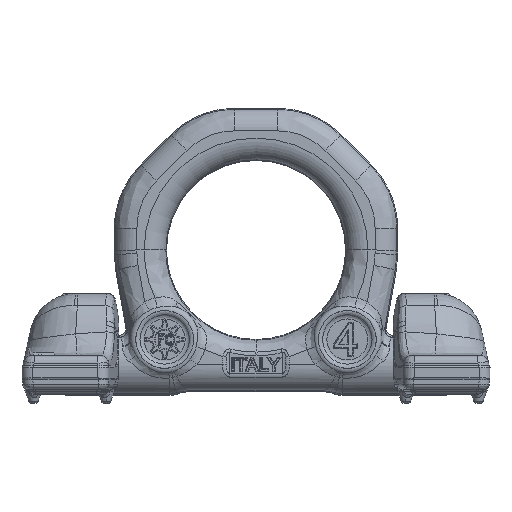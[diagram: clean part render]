
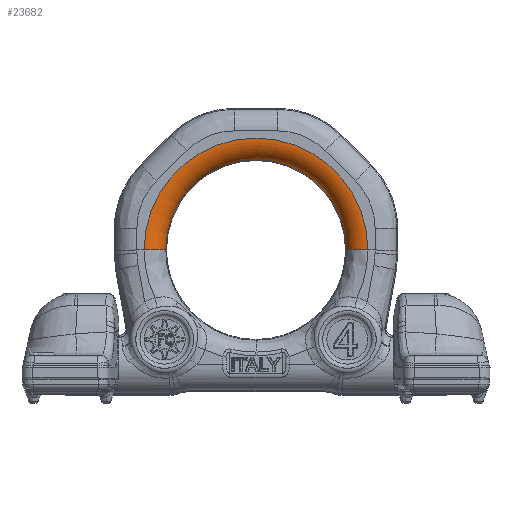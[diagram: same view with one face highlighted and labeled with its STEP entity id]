
A CAD part, front view. The second image highlights one B-rep face of the part: STEP entity #23682.
In plain terms, the highlighted toroidal (fillet/blend) face has major radius 30 mm and minor radius 6 mm.
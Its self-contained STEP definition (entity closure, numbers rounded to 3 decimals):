
#6072=CARTESIAN_POINT('',(-24.217,-2.6,31.));
#6073=VERTEX_POINT('Vertex186',#6072);
#6082=CARTESIAN_POINT('',(-30.,-7.,31.));
#6083=VERTEX_POINT('Vertex187',#6082);
#6084=CARTESIAN_POINT('',(-30.,-7.,31.));
#6085=CARTESIAN_POINT('',(-29.643,-7.,31.));
#6086=CARTESIAN_POINT('',(-29.287,-6.968,31.));
#6087=CARTESIAN_POINT('',(-28.584,-6.841,31.));
#6088=CARTESIAN_POINT('',(-28.239,-6.747,31.));
#6089=CARTESIAN_POINT('',(-27.57,-6.498,31.));
#6090=CARTESIAN_POINT('',(-27.247,-6.343,31.));
#6091=CARTESIAN_POINT('',(-26.634,-5.979,31.));
#6092=CARTESIAN_POINT('',(-26.343,-5.77,31.));
#6093=CARTESIAN_POINT('',(-25.804,-5.303,31.));
#6094=CARTESIAN_POINT('',(-25.555,-5.046,31.));
#6095=CARTESIAN_POINT('',(-25.107,-4.49,31.));
#6096=CARTESIAN_POINT('',(-24.908,-4.193,31.));
#6097=CARTESIAN_POINT('',(-24.565,-3.567,31.));
#6098=CARTESIAN_POINT('',(-24.422,-3.239,31.));
#6099=CARTESIAN_POINT('',(-24.276,-2.801,31.));
#6100=CARTESIAN_POINT('',(-24.246,-2.701,31.));
#6101=CARTESIAN_POINT('',(-24.217,-2.6,31.));
#6102=B_SPLINE_CURVE_WITH_KNOTS('nurbsCrv280',3,(#6084,#6085,#6086,#6087,#6088,
#6089,#6090,#6091,#6092,#6093,#6094,#6095,#6096,#6097,#6098,#6099,#6100,#6101),
.UNSPECIFIED.,.F.,.F.,(4,2,2,2,2,2,2,2,4),(0.,1.147,2.294
,3.441,4.588,5.736,6.883,
8.03,8.366),.UNSPECIFIED.);
#6103=EDGE_CURVE('Edge280',#6083,#6073,#6102,.T.);
#6428=CARTESIAN_POINT('',(30.,-7.,31.));
#6429=VERTEX_POINT('Vertex196',#6428);
#6441=CARTESIAN_POINT('',(24.217,-2.6,31.));
#6442=VERTEX_POINT('Vertex197',#6441);
#6443=CARTESIAN_POINT('',(30.,-7.,31.));
#6444=CARTESIAN_POINT('',(29.643,-7.,31.));
#6445=CARTESIAN_POINT('',(29.287,-6.968,31.));
#6446=CARTESIAN_POINT('',(28.584,-6.841,31.));
#6447=CARTESIAN_POINT('',(28.239,-6.747,31.));
#6448=CARTESIAN_POINT('',(27.57,-6.498,31.));
#6449=CARTESIAN_POINT('',(27.247,-6.343,31.));
#6450=CARTESIAN_POINT('',(26.634,-5.979,31.));
#6451=CARTESIAN_POINT('',(26.343,-5.77,31.));
#6452=CARTESIAN_POINT('',(25.804,-5.303,31.));
#6453=CARTESIAN_POINT('',(25.555,-5.046,31.));
#6454=CARTESIAN_POINT('',(25.107,-4.49,31.));
#6455=CARTESIAN_POINT('',(24.908,-4.193,31.));
#6456=CARTESIAN_POINT('',(24.565,-3.567,31.));
#6457=CARTESIAN_POINT('',(24.422,-3.239,31.));
#6458=CARTESIAN_POINT('',(24.276,-2.801,31.));
#6459=CARTESIAN_POINT('',(24.246,-2.701,31.));
#6460=CARTESIAN_POINT('',(24.217,-2.6,31.));
#6461=B_SPLINE_CURVE_WITH_KNOTS('nurbsCrv291',3,(#6443,#6444,#6445,#6446,#6447,
#6448,#6449,#6450,#6451,#6452,#6453,#6454,#6455,#6456,#6457,#6458,#6459,#6460),
.UNSPECIFIED.,.F.,.F.,(4,2,2,2,2,2,2,2,4),(0.,1.147,2.294
,3.441,4.588,5.736,6.883,
8.03,8.366),.UNSPECIFIED.);
#6462=EDGE_CURVE('Edge291',#6429,#6442,#6461,.T.);
#23023=CARTESIAN_POINT('',(0.,-2.6,31.));
#23024=DIRECTION('',(0.,1.,0.));
#23025=DIRECTION('',(-1.,0.,0.));
#23026=AXIS2_PLACEMENT_3D('',#23023,#23024,#23025);
#23027=CIRCLE('nurbsCrv997',#23026,24.217);
#23028=EDGE_CURVE('Edge997',#6073,#6442,#23027,.T.);
#23665=ORIENTED_EDGE('Edgeuse1951',*,*,#6462,.F.);
#23666=CARTESIAN_POINT('',(0.,-7.,31.));
#23667=DIRECTION('',(0.,1.,0.));
#23668=DIRECTION('',(-1.,0.,0.));
#23669=AXIS2_PLACEMENT_3D('',#23666,#23667,#23668);
#23670=CIRCLE('nurbsCrv1026',#23669,30.);
#23671=EDGE_CURVE('Edge1026',#6083,#6429,#23670,.T.);
#23672=ORIENTED_EDGE('Edgeuse1952',*,*,#23671,.F.);
#23673=ORIENTED_EDGE('Edgeuse1953',*,*,#6103,.T.);
#23674=ORIENTED_EDGE('Edgeuse1954',*,*,#23028,.T.);
#23675=EDGE_LOOP('',(#23665,#23672,#23673,#23674));
#23676=FACE_OUTER_BOUND('',#23675,.T.);
#23677=CARTESIAN_POINT('',(0.,-1.,31.));
#23678=DIRECTION('',(0.,-1.,0.));
#23679=DIRECTION('',(0.,0.,-1.));
#23680=AXIS2_PLACEMENT_3D('',#23677,#23678,#23679);
#23681=TOROIDAL_SURFACE('nurbsSrf392',#23680,30.,6.);
#23682=ADVANCED_FACE('Face392',(#23676),#23681,.T.);
